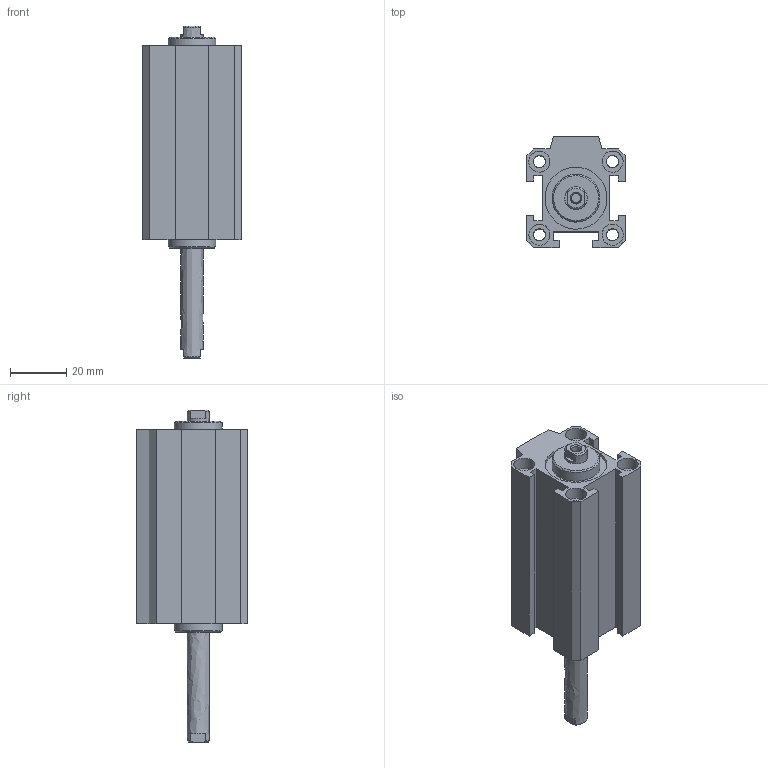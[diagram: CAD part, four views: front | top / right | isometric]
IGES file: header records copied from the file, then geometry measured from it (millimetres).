
Global section: file name: 1514_20_0035; native system: Autodesk Inventor 2014; preprocessor: unknown; author: A. Manieri; date: 20160824.110442; units: millimetre
Bounding box: 35 x 39.5 x 118 mm (x, y, z)
Volume: 59179.8 mm3; surface area: 29606.1 mm2
Topology: 2 solids, 2 shells, 104 faces, 272 edges, 192 vertices
Faces by surface type: bspline 104
